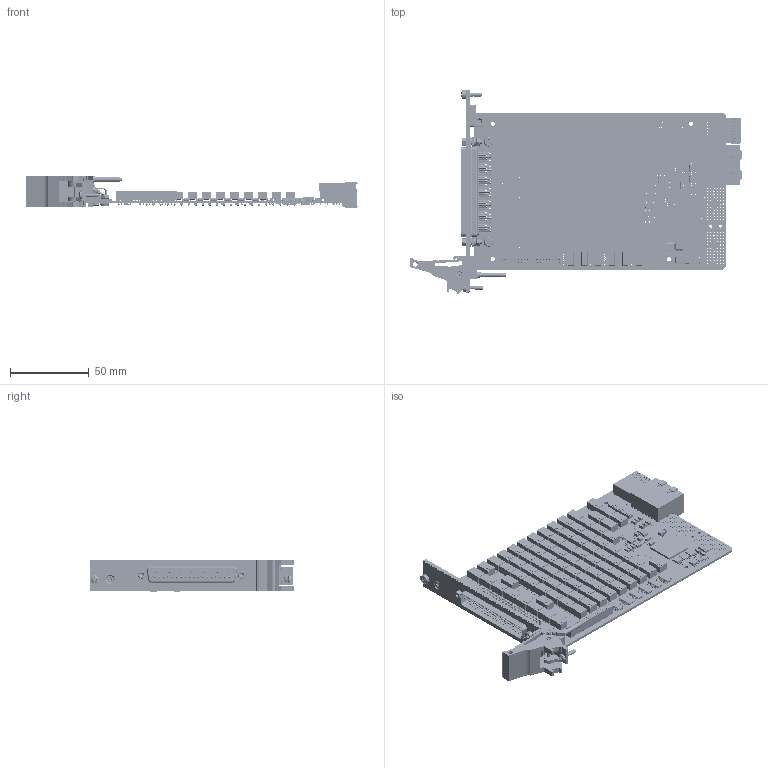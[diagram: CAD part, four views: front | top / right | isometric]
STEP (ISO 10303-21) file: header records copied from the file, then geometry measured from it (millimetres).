
FILE_DESCRIPTION (( 'STEP AP214' ), '1' );
FILE_NAME ('42-297A-152 PXIe High Density Precision Resistor Module 3-Channel 3 Ohm to 5.82 MOhm 0.5 Ohm Resolution.step', '2024-06-03T10:06:03', ( '' ), ( '' ), 'SwSTEP 2.0', 'SolidWorks 2023', '' );
FILE_SCHEMA (( 'AUTOMOTIVE_DESIGN' ));
Length unit declared in the file: millimetre
Products named in the file (115): C-RS-921 RES 0204 2M7 0.25W 1% 50PPM; C-FP-399 PXI 3U 1-slot 37Way D PCB Mounting; C-RS-869 RES 0204 4R7 0.25W 1% 50PPM; C-CP-175 CAP 22uF 1206 25V X5R 10%; C-RS-866 RES 0204 1R8 0.25W 1% 50PPM; C-RS-889 RES 47K 0204 0.25W 0.1% 15PPM; C-CN-859 D Connector Mounting Bracket; C-CN-1422-BODY PXIE XJ3 RA F TH SD; C-SC-146 Dual Transistor SOT-14; C-RS-1247 RES 510K 0603 0.1W 1% 100PPM; C-RS-918 Surface Mount MELF Resistor; C-RS-256 Res 100K (0603) 1.16W 1% 100pp SMT; C-CP-131 CAP 3.3nF CERAMIC SMT 0402; C-FX-165 Handle Pin; A-PC-1383-X52-PXIE-# Programmable Resistor Mother; C-RS-870 RES 0204 6R8 0.25W 1% 50PPM; C-RS-916 Surface Mount MELF Resistor MMA 0204; C-RS-862 0204 Surface Mount; C-RS-1520 SMD 1206 562Kohm 25ppm  AEC (1206); C-FX-165 CPCI Ejector Handle; C-CN-1422 PXIE XJ3 RA F TH SD ASSY; C-RS-920 RES 0204 2M2 0.25W 1% 50PPM; C-FX-101 Screw, M2.5 x 6, Pan Hd, Pozi, Steel, BZP; C-CP-124 CAP 10nF CERAMIC SMT 0402; C-RS-879 RES 470R 0204 0.25W 0.1% 15PPM; C-MS-803 BEAD 120R 0603 2A 0R05 25%; C-RS-913 RES 51K 0204 0.25W 0.1% 15PPM; C-CN-1579 2 X 19 WAY HEADER ST F TH; C-RS-865 RES 0204 1R 0.25W 1% 50PPM; C-RS-1216 Surface Mount MELF Resistor MMA 0204; C-RS-890 RES 68K 0204 0.25W 0.1% 15PPM; C-RS-867 RES 0204 2R2 0.25W 1% 50PPM; C-IC-425 SOICN 8PIN SD; C-CN-135 37 Way D Connector_RS 446-490; C-RS-884 RES 2K4 0204 0.25W 0.1% 15PPM; C-CN-107-PIN; C-IC-497 High Accuracy 3V to 17V Step Down Converter; C-RS-922 RES 0204 3M3 0.25W 1% 50PPM; C-FX-165 Handle Body; C-RS-152 Res 10K 0603 1-16W 1% 300PPM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
Assembly tree (586 placements, depth 5):
  42-297A-152 PXIe High Density Precision Resistor Module 3-Channel 3 Ohm to 5.82 MOhm 0.5 Ohm Resolution
    A-PC-1383-X52-PXIE Programmable Resistor Mother
      A-PC-1383-X52-PXIE-# Programmable Resistor Mother
        C-PC-1383 Programmable Resistor Motherboard
        C-CN-1071
          C-CN-107-BODY
          C-CN-107-PIN  x8
        C-CN-1116 40 WAY PXIE XJ4 TYPE B8 RA F
          C-CN-1116-Body 40 WAY PXIE XJ4 TYPE B8 RA F
          C-CN-1116-Shield 40 WAY PXIE XJ4 TYPE B8 RA F
        C-CN-1422 PXIE XJ3 RA F TH SD ASSY
          C-CN-1422-BODY PXIE XJ3 RA F TH SD
        C-CN-1579 2 X 19 WAY HEADER ST F TH
        C-IC-497 High Accuracy 3V to 17V Step Down Converter
        C-RS-490 Res 0603 82K SMT
        C-RS-1247 RES 510K 0603 0.1W 1% 100PPM
        C-RS-256 Res 100K (0603) 1.16W 1% 100pp SMT
        C-RS-190 Res 0R0 SIZE 0603 SMT  x3
        C-MS-1069 Shielded Power Inductor
        C-CP-239  Power Line Filter  x3
        C-CP-175 CAP 22uF 1206 25V X5R 10%  x7
        C-CP-131 CAP 3.3nF CERAMIC SMT 0402
        C-CP-141 CAP 10UF 1206 35V X5R 10%  x5
        C-RL-260 Signal Relay Surface Mount_No Text  x85
        C-CN-1462 2 x 15 WAY HEADER ST F SM
        C-IC-226  16 Bit Driver IC  x6
        C-IC-489 F-RAM Semiconductor Serial-I2C FRAM Memory 512kbit 2-3.6 V 8-Pin SOIC  x2
        C-RS-862 0204 Surface Mount  x24
        C-RS-1216 Surface Mount MELF Resistor MMA 0204  x6
        C-RS-1114 RES 0204 330K 0.25W 1% 50PPM  x3
        C-RS-921 RES 0204 2M7 0.25W 1% 50PPM  x9
        C-RS-918 Surface Mount MELF Resistor  x3
        C-RS-920 RES 0204 2M2 0.25W 1% 50PPM  x6
        C-RS-1520 SMD 1206 562Kohm 25ppm  AEC (1206)  x6
        C-RS-916 Surface Mount MELF Resistor MMA 0204  x3
        C-RS-1521 SMD 1206 226Kohm 25ppm  AEC (1206)  x3
        C-RS-919 RES 0204 1M 0.25W 1% 50PPM  x3
        C-RS-1522 SMD 1206 121Kohm 25ppm  AEC (1206)  x3
        C-RS-915 RES 120K 0204 0.25W 0.1% 15PPM  x3
        C-RS-922 RES 0204 3M3 0.25W 1% 50PPM  x3
        C-RS-913 RES 51K 0204 0.25W 0.1% 15PPM  x12
        C-RS-914 RES 100K 0204 0.25W 0.1% 15PPM  x3
        C-RS-912 RES 13K 0204 0.25W 0.1% 15PPM  x6
        C-RS-917 RES 390K 0204 0.25W 1% 50PPM  x3
        C-RS-911 RES 6K8 0204 0.25W 0.1% 15PPM  x6
        C-RS-889 RES 47K 0204 0.25W 0.1% 15PPM  x6
        C-RS-885 RES 3K9 0204 0.25W 0.1% 15PPM  x6
        C-RS-890 RES 68K 0204 0.25W 0.1% 15PPM  x3
        C-RS-882 RES 1K8 0204 0.25W 0.1% 15PPM  x6
        C-RS-881 RES 910R 0204 0.25W 0.1% 15PPM  x6
        C-RS-887 RES 16K 0204 0.25W 0.1% 15PPM  x3
        C-RS-879 RES 470R 0204 0.25W 0.1% 15PPM  x6
        C-RS-886 RES 0204  x3
        C-RS-877 RES 240R 0204 0.25W 0.1% 15PPM  x9
        C-RS-884 RES 2K4 0204 0.25W 0.1% 15PPM  x6
        C-RS-876 RES 130R 0204 0.25W 0.1% 15PPM  x6
        C-RS-875 RES 62R 0204 0.25W 0.1% 15PPM  x6
        C-RS-800 RES 3K9 0805 0.1% 5PPM  x3
        C-RS-874 RES 0204 33R 0.25W 1% 50PPM  x6
        C-RS-878 RES 430R 0204 0.25W 0.1% 15PPM  x3
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Bounding box: 210.75 x 129.63 x 20.79 mm (x, y, z)
Volume: 80489.9 mm3; surface area: 101226.6 mm2
Topology: 593 solids, 620 shells, 31548 faces, 78392 edges, 49860 vertices
Faces by surface type: plane 19354, cylinder 9292, torus 1629, sphere 732, cone 417, bspline 124
Entity records: 500639 total; most frequent: CARTESIAN_POINT 69773, DIRECTION 68461, ORIENTED_EDGE 63134, EDGE_CURVE 31569, AXIS2_PLACEMENT_3D 24843, VERTEX_POINT 20459, LINE 18775, VECTOR 18775
